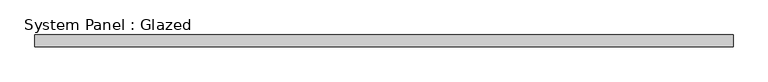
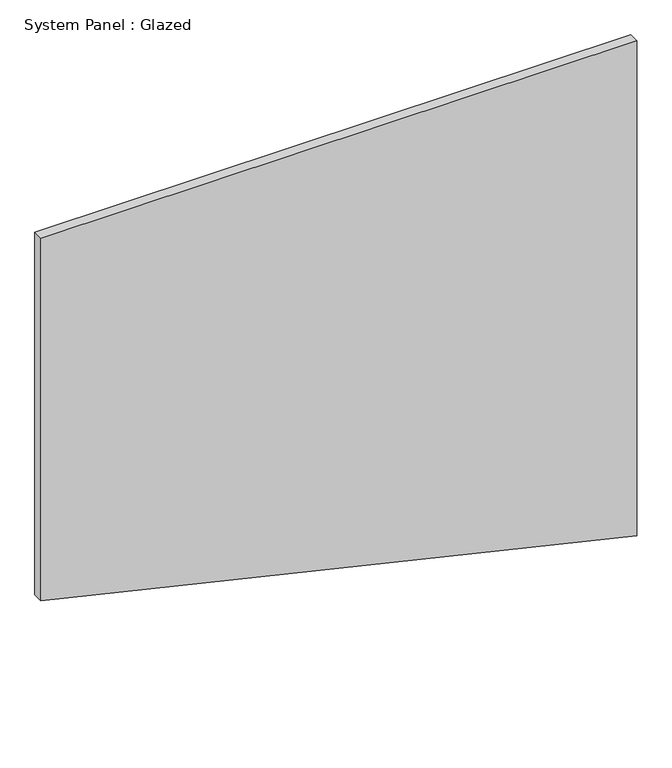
"""IFC4 building model written with IfcOpenShell, lengths in millimetres: plate geometry, System Panel : Glazed."""

from ifc_helpers import new_model, si_unit, frame, origin, place, context, project, spatial, polyline, outline, extrude, source, transform, mapped, element, save


def system_panel_glazed_48fb818a(model_context):
    return source(origin(), model_context, "Body", "SweptSolid", [
        extrude(outline(polyline([(345.7559661, -735.8695652), (0.0, 735.8695652), (1292.2959484, 735.8695652), (1292.2959484, -735.8695652), (345.7559661, -735.8695652)])), frame((0.0, 24.5, 0.0), z_axis=(0.0, 1.0, 0.0), x_axis=(0.0, 0.0, 1.0)), (0.0, 0.0, 1.0), 25.0),
    ])


if __name__ == "__main__":
    model = new_model("IFC4")
    model_context = context("Model", 3, world=origin())
    ifc_project = project(units=[si_unit("LENGTHUNIT", "METRE", prefix="MILLI")], contexts=[model_context])
    site = spatial("IfcSite", under=ifc_project)
    building = spatial("IfcBuilding", under=site)
    placement = place(None, origin())
    system_panel_glazed_shape = system_panel_glazed_48fb818a(model_context)
    element("IfcPlate", 1, ObjectType="System Panel : Glazed", at=placement, inside=building, context=model_context, shape_type="MappedRepresentation", body=[
        mapped(system_panel_glazed_shape, transform((0.0, 0.0, 0.0), x_axis=(1.0, 0.0, 0.0), y_axis=(0.0, 1.0, 0.0), z_axis=(0.0, 0.0, 1.0))),
    ])
    save(model, "model.ifc")
